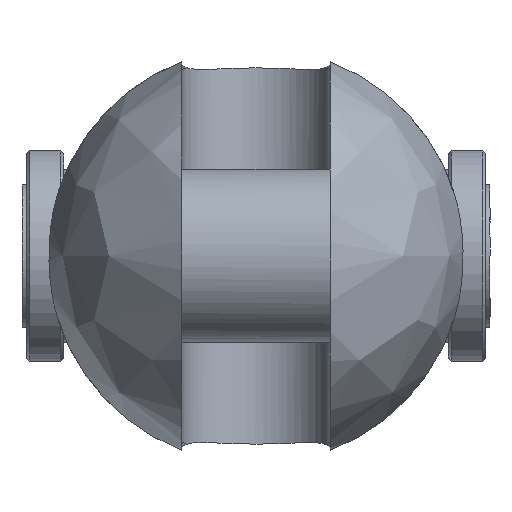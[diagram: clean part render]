
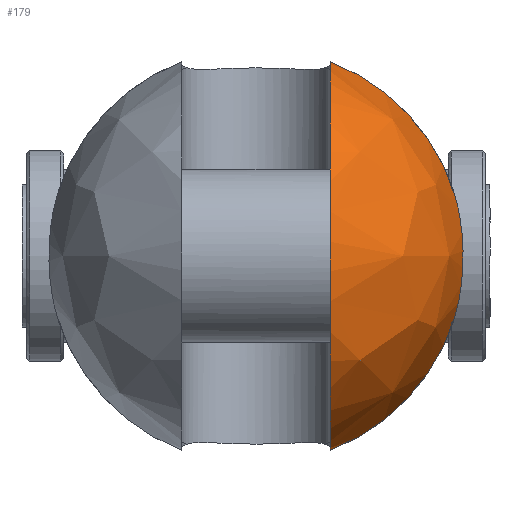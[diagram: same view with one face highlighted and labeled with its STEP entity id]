
A CAD part, left-side view. The second image highlights one B-rep face of the part: STEP entity #179.
In plain terms, the highlighted free-form (B-spline) face has degree [2, 2] with [9, 5] control points.
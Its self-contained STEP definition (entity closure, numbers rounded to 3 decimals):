
#179=ADVANCED_FACE('',(#320),#2417,.T.);
#320=FACE_OUTER_BOUND('',#481,.T.);
#481=EDGE_LOOP('',(#1194,#1195,#1196,#1197));
#1194=ORIENTED_EDGE('',*,*,#1575,.T.);
#1195=ORIENTED_EDGE('',*,*,#1602,.F.);
#1196=ORIENTED_EDGE('',*,*,#1619,.T.);
#1197=ORIENTED_EDGE('',*,*,#1595,.F.);
#1575=EDGE_CURVE('',#2249,#2248,#1983,.T.);
#1595=EDGE_CURVE('',#2249,#2261,#1993,.T.);
#1602=EDGE_CURVE('',#2268,#2248,#1994,.T.);
#1619=EDGE_CURVE('',#2268,#2261,#1788,.T.);
#1788=B_SPLINE_CURVE_WITH_KNOTS('',3,(#6082,#6083,#6084,#6085,#6086,#6087,
#6088,#6089,#6090,#6091,#6092,#6093,#6094,#6095),.UNSPECIFIED.,.F.,.F.,
(4,2,2,2,2,2,4),(-21.373,-19.503,-15.095,-10.687,
-6.278,-1.87,0.),.UNSPECIFIED.);
#1983=(
BOUNDED_CURVE()
B_SPLINE_CURVE(2,(#5883,#5884,#5885,#5886,#5887),.UNSPECIFIED.,.F.,.F.)
B_SPLINE_CURVE_WITH_KNOTS((3,2,3),(-98.26,-49.13,0.),
 .UNSPECIFIED.)
CURVE()
GEOMETRIC_REPRESENTATION_ITEM()
RATIONAL_B_SPLINE_CURVE((1.,0.707,1.,0.707,1.))
REPRESENTATION_ITEM('')
);
#1993=(
BOUNDED_CURVE()
B_SPLINE_CURVE(2,(#5977,#5978,#5979),.UNSPECIFIED.,.F.,.F.)
B_SPLINE_CURVE_WITH_KNOTS((3,3),(0.,30.247),.UNSPECIFIED.)
CURVE()
GEOMETRIC_REPRESENTATION_ITEM()
RATIONAL_B_SPLINE_CURVE((1.,0.9,1.))
REPRESENTATION_ITEM('')
);
#1994=(
BOUNDED_CURVE()
B_SPLINE_CURVE(2,(#6008,#6009,#6010),.UNSPECIFIED.,.F.,.F.)
B_SPLINE_CURVE_WITH_KNOTS((3,3),(0.,30.247),.UNSPECIFIED.)
CURVE()
GEOMETRIC_REPRESENTATION_ITEM()
RATIONAL_B_SPLINE_CURVE((1.,0.9,1.))
REPRESENTATION_ITEM('')
);
#2248=VERTEX_POINT('',#5767);
#2249=VERTEX_POINT('',#5768);
#2261=VERTEX_POINT('',#5780);
#2268=VERTEX_POINT('',#5787);
#2417=(
BOUNDED_SURFACE()
B_SPLINE_SURFACE(2,2,((#5481,#5482,#5483,#5484,#5485),(#5486,#5487,#5488,
#5489,#5490),(#5491,#5492,#5493,#5494,#5495),(#5496,#5497,#5498,#5499,#5500),
(#5501,#5502,#5503,#5504,#5505),(#5506,#5507,#5508,#5509,#5510),(#5511,
#5512,#5513,#5514,#5515),(#5516,#5517,#5518,#5519,#5520),(#5521,#5522,#5523,
#5524,#5525)),.UNSPECIFIED.,.T.,.F.,.F.)
B_SPLINE_SURFACE_WITH_KNOTS((3,2,2,2,3),(3,2,3),(0.,52.622,105.243,
157.865,210.487),(0.,52.622,105.243),
 .UNSPECIFIED.)
GEOMETRIC_REPRESENTATION_ITEM()
RATIONAL_B_SPLINE_SURFACE(((1.,0.707,1.,0.707,1.),
(0.707,0.5,0.707,0.5,0.707),(1.,0.707,
1.,0.707,1.),(0.707,0.5,0.707,0.5,0.707),
(1.,0.707,1.,0.707,1.),(0.707,0.5,0.707,
0.5,0.707),(1.,0.707,1.,0.707,1.),(0.707,
0.5,0.707,0.5,0.707),(1.,0.707,1.,0.707,
1.)))
REPRESENTATION_ITEM('')
SURFACE()
);
#5481=CARTESIAN_POINT('',(-48.5,0.,0.));
#5482=CARTESIAN_POINT('',(-48.5,33.5,0.));
#5483=CARTESIAN_POINT('',(-15.,33.5,0.));
#5484=CARTESIAN_POINT('',(18.5,33.5,0.));
#5485=CARTESIAN_POINT('',(18.5,0.,0.));
#5486=CARTESIAN_POINT('',(-48.5,0.,0.));
#5487=CARTESIAN_POINT('',(-48.5,33.5,33.5));
#5488=CARTESIAN_POINT('',(-15.,33.5,33.5));
#5489=CARTESIAN_POINT('',(18.5,33.5,33.5));
#5490=CARTESIAN_POINT('',(18.5,0.,0.));
#5491=CARTESIAN_POINT('',(-48.5,0.,0.));
#5492=CARTESIAN_POINT('',(-48.5,0.,33.5));
#5493=CARTESIAN_POINT('',(-15.,0.,33.5));
#5494=CARTESIAN_POINT('',(18.5,0.,33.5));
#5495=CARTESIAN_POINT('',(18.5,0.,0.));
#5496=CARTESIAN_POINT('',(-48.5,0.,0.));
#5497=CARTESIAN_POINT('',(-48.5,-33.5,33.5));
#5498=CARTESIAN_POINT('',(-15.,-33.5,33.5));
#5499=CARTESIAN_POINT('',(18.5,-33.5,33.5));
#5500=CARTESIAN_POINT('',(18.5,0.,0.));
#5501=CARTESIAN_POINT('',(-48.5,0.,0.));
#5502=CARTESIAN_POINT('',(-48.5,-33.5,0.));
#5503=CARTESIAN_POINT('',(-15.,-33.5,0.));
#5504=CARTESIAN_POINT('',(18.5,-33.5,0.));
#5505=CARTESIAN_POINT('',(18.5,0.,0.));
#5506=CARTESIAN_POINT('',(-48.5,0.,0.));
#5507=CARTESIAN_POINT('',(-48.5,-33.5,-33.5));
#5508=CARTESIAN_POINT('',(-15.,-33.5,-33.5));
#5509=CARTESIAN_POINT('',(18.5,-33.5,-33.5));
#5510=CARTESIAN_POINT('',(18.5,0.,0.));
#5511=CARTESIAN_POINT('',(-48.5,0.,0.));
#5512=CARTESIAN_POINT('',(-48.5,0.,-33.5));
#5513=CARTESIAN_POINT('',(-15.,0.,-33.5));
#5514=CARTESIAN_POINT('',(18.5,0.,-33.5));
#5515=CARTESIAN_POINT('',(18.5,0.,0.));
#5516=CARTESIAN_POINT('',(-48.5,0.,0.));
#5517=CARTESIAN_POINT('',(-48.5,33.5,-33.5));
#5518=CARTESIAN_POINT('',(-15.,33.5,-33.5));
#5519=CARTESIAN_POINT('',(18.5,33.5,-33.5));
#5520=CARTESIAN_POINT('',(18.5,0.,0.));
#5521=CARTESIAN_POINT('',(-48.5,0.,0.));
#5522=CARTESIAN_POINT('',(-48.5,33.5,0.));
#5523=CARTESIAN_POINT('',(-15.,33.5,0.));
#5524=CARTESIAN_POINT('',(18.5,33.5,0.));
#5525=CARTESIAN_POINT('',(18.5,0.,0.));
#5767=CARTESIAN_POINT('',(-15.,-12.,-31.277));
#5768=CARTESIAN_POINT('',(-15.,-12.,31.277));
#5780=CARTESIAN_POINT('',(-15.,-31.988,9.95));
#5787=CARTESIAN_POINT('',(-15.,-31.988,-9.95));
#5883=CARTESIAN_POINT('',(-15.,-12.,31.277));
#5884=CARTESIAN_POINT('',(-46.277,-12.,31.277));
#5885=CARTESIAN_POINT('',(-46.277,-12.,0.));
#5886=CARTESIAN_POINT('',(-46.277,-12.,-31.277));
#5887=CARTESIAN_POINT('',(-15.,-12.,-31.277));
#5977=CARTESIAN_POINT('',(-15.,-12.,31.277));
#5978=CARTESIAN_POINT('',(-15.,-27.164,25.459));
#5979=CARTESIAN_POINT('',(-15.,-31.988,9.95));
#6008=CARTESIAN_POINT('',(-15.,-31.988,-9.95));
#6009=CARTESIAN_POINT('',(-15.,-27.164,-25.459));
#6010=CARTESIAN_POINT('',(-15.,-12.,-31.277));
#6082=CARTESIAN_POINT('',(-15.,-31.988,-9.95));
#6083=CARTESIAN_POINT('',(-15.337,-32.146,-9.442));
#6084=CARTESIAN_POINT('',(-15.65,-32.292,-8.914));
#6085=CARTESIAN_POINT('',(-16.609,-32.736,-7.088));
#6086=CARTESIAN_POINT('',(-17.132,-32.973,-5.711));
#6087=CARTESIAN_POINT('',(-17.828,-33.288,-2.881));
#6088=CARTESIAN_POINT('',(-18.,-33.365,-1.427));
#6089=CARTESIAN_POINT('',(-18.,-33.365,1.427));
#6090=CARTESIAN_POINT('',(-17.828,-33.288,2.881));
#6091=CARTESIAN_POINT('',(-17.132,-32.973,5.711));
#6092=CARTESIAN_POINT('',(-16.609,-32.736,7.088));
#6093=CARTESIAN_POINT('',(-15.65,-32.292,8.914));
#6094=CARTESIAN_POINT('',(-15.337,-32.146,9.442));
#6095=CARTESIAN_POINT('',(-15.,-31.988,9.95));
